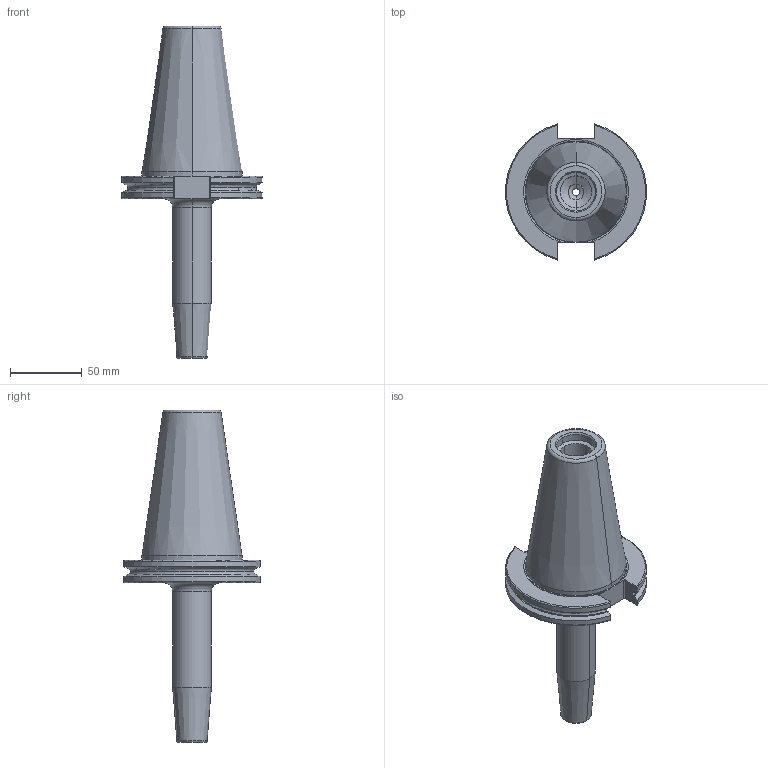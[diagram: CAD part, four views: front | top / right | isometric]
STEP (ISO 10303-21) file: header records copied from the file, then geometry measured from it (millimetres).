
FILE_DESCRIPTION (( 'STEP AP214' ), '1' );
FILE_NAME ('RC5SF0312512.STEP', '2019-02-28T19:25:13', ( '' ), ( '' ), 'SwSTEP 2.0', 'SolidWorks 2019', '' );
FILE_SCHEMA (( 'AUTOMOTIVE_DESIGN' ));
Length unit declared in the file: inch
Products named in the file (2): RC5SF0312512
Bounding box: 98.05 x 94.95 x 231.6 mm (x, y, z)
Volume: 371396.9 mm3; surface area: 55931.1 mm2
Topology: 1 solids, 1 shells, 97 faces, 242 edges, 147 vertices
Faces by surface type: cylinder 30, cone 27, torus 20, plane 20
Entity records: 4373 total; most frequent: CARTESIAN_POINT 752, DIRECTION 503, ORIENTED_EDGE 480, EDGE_CURVE 240, AXIS2_PLACEMENT_3D 204, VERTEX_POINT 147, CIRCLE 105, EDGE_LOOP 101
